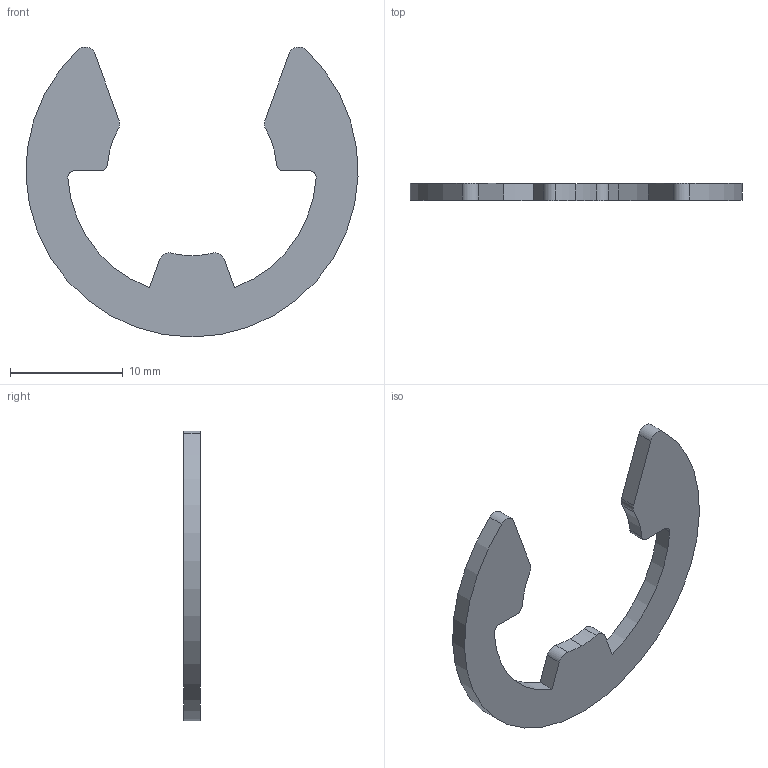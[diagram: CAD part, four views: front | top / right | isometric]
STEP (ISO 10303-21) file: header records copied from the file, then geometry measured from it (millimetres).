
FILE_DESCRIPTION (( 'STEP AP203' ), '1' );
FILE_NAME ('P0382.150-PH.step', '2019-07-25T21:01:30', ( '' ), ( '' ), 'SwSTEP 2.0', 'SolidWorks 2017', '' );
FILE_SCHEMA (( 'CONFIG_CONTROL_DESIGN' ));
Length unit declared in the file: millimetre
Products named in the file (1): P0382.150-PH
Bounding box: 29.38 x 1.5 x 25.66 mm (x, y, z)
Volume: 447.8 mm3; surface area: 807.2 mm2
Topology: 1 solids, 1 shells, 26 faces, 72 edges, 48 vertices
Faces by surface type: cylinder 18, plane 8
Entity records: 929 total; most frequent: DIRECTION 162, CARTESIAN_POINT 147, ORIENTED_EDGE 144, EDGE_CURVE 72, AXIS2_PLACEMENT_3D 63, VERTEX_POINT 48, LINE 36, CIRCLE 36
